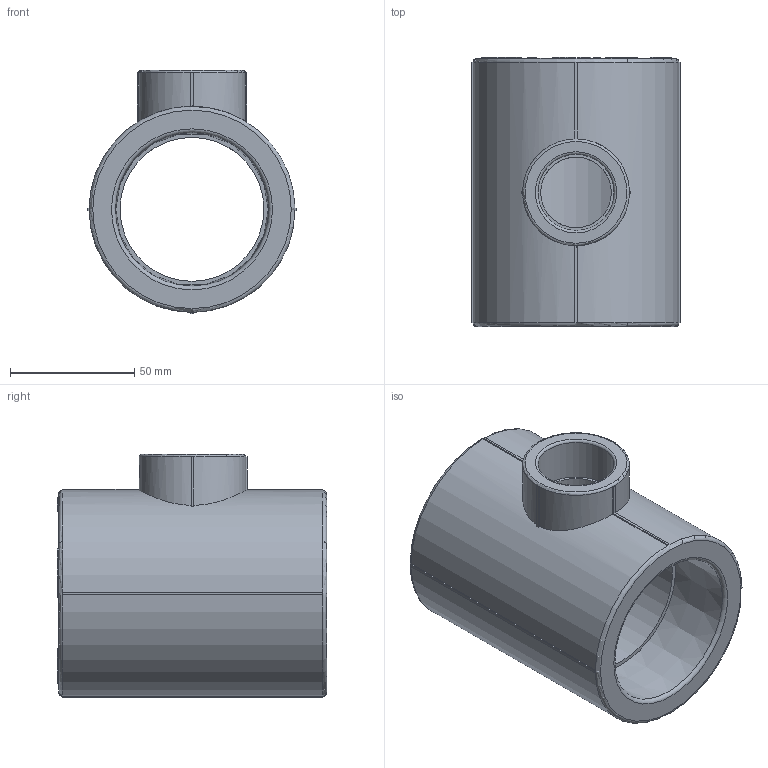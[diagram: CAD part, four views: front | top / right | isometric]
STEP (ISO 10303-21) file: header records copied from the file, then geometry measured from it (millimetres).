
FILE_DESCRIPTION(('STEP AP203'), '1');
FILE_NAME('ÂÐ.752241.069 - VTp.735.0.063032063', '', ('UNSPECIFIED'), ('UNSPECIFIED'), 'C3D Converter', 'C3D Toolkit', '');
FILE_SCHEMA(('CONFIG_CONTROL_DESIGN'));
Length unit declared in the file: millimetre
Products named in the file (1): ВР.752241.069
Bounding box: 84 x 108.5 x 98 mm (x, y, z)
Volume: 283076.5 mm3; surface area: 57617.8 mm2
Topology: 1 solids, 1 shells, 1144 faces, 3218 edges, 2137 vertices
Faces by surface type: extrusion 681, plane 419, cylinder 36, torus 6, cone 2
Full cylindrical faces by diameter (mm): 6 x1, 28.5 x1, 30.7 x1, 58 x1
Entity records: 42183 total; most frequent: CARTESIAN_POINT 16165, ORIENTED_EDGE 6412, EDGE_CURVE 3206, DIRECTION 3201, VECTOR 2183, VERTEX_POINT 2137, B_SPLINE_CURVE_WITH_KNOTS 2049, LINE 1502
